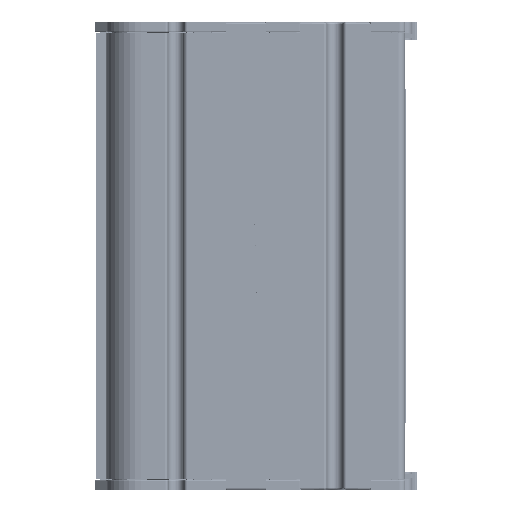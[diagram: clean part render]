
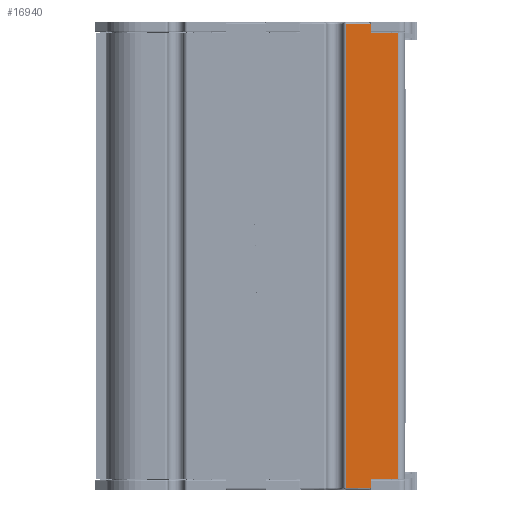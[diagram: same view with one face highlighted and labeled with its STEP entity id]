
A CAD part, left-side view. The second image highlights one B-rep face of the part: STEP entity #16940.
In plain terms, the highlighted planar face has unit normal (-1, 0, 0).
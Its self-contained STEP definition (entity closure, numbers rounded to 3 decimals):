
#2821=PLANE('',#75875);
#6736=LINE('',#200780,#11695);
#6764=LINE('',#200872,#11723);
#6768=LINE('',#200883,#11727);
#6827=LINE('',#201028,#11786);
#6828=LINE('',#201030,#11787);
#6829=LINE('',#201032,#11788);
#6830=LINE('',#201034,#11789);
#6831=LINE('',#201036,#11790);
#11695=VECTOR('',#85391,1.);
#11723=VECTOR('',#85467,1.);
#11727=VECTOR('',#85477,1.);
#11786=VECTOR('',#85628,1.);
#11787=VECTOR('',#85629,1.);
#11788=VECTOR('',#85630,1.);
#11789=VECTOR('',#85631,1.);
#11790=VECTOR('',#85632,1.);
#16940=ADVANCED_FACE('',(#21627),#2821,.F.);
#21627=FACE_OUTER_BOUND('',#25578,.T.);
#25578=EDGE_LOOP('',(#41005,#41006,#41007,#41008,#41009,#41010,#41011,#41012));
#41005=ORIENTED_EDGE('',*,*,#65550,.T.);
#41006=ORIENTED_EDGE('',*,*,#65551,.T.);
#41007=ORIENTED_EDGE('',*,*,#65552,.F.);
#41008=ORIENTED_EDGE('',*,*,#65553,.F.);
#41009=ORIENTED_EDGE('',*,*,#65554,.T.);
#41010=ORIENTED_EDGE('',*,*,#65471,.T.);
#41011=ORIENTED_EDGE('',*,*,#65477,.F.);
#41012=ORIENTED_EDGE('',*,*,#65431,.T.);
#56906=VERTEX_POINT('',#200742);
#56913=VERTEX_POINT('',#200779);
#56937=VERTEX_POINT('',#200871);
#56938=VERTEX_POINT('',#200873);
#56982=VERTEX_POINT('',#201029);
#56983=VERTEX_POINT('',#201031);
#56984=VERTEX_POINT('',#201033);
#56985=VERTEX_POINT('',#201035);
#65431=EDGE_CURVE('',#56913,#56906,#6736,.T.);
#65471=EDGE_CURVE('',#56938,#56937,#6764,.T.);
#65477=EDGE_CURVE('',#56913,#56937,#6768,.T.);
#65550=EDGE_CURVE('',#56906,#56982,#6827,.T.);
#65551=EDGE_CURVE('',#56982,#56983,#6828,.T.);
#65552=EDGE_CURVE('',#56984,#56983,#6829,.T.);
#65553=EDGE_CURVE('',#56985,#56984,#6830,.T.);
#65554=EDGE_CURVE('',#56985,#56938,#6831,.T.);
#75875=AXIS2_PLACEMENT_3D('',#201037,#85633,#85634);
#85391=DIRECTION('',(0.,1.,0.));
#85467=DIRECTION('',(0.,1.,0.));
#85477=DIRECTION('',(0.,0.,-1.));
#85628=DIRECTION('',(0.,0.,-1.));
#85629=DIRECTION('',(0.,-1.,0.));
#85630=DIRECTION('',(0.,0.,-1.));
#85631=DIRECTION('',(0.,1.,0.));
#85632=DIRECTION('',(0.,0.,1.));
#85633=DIRECTION('',(1.,0.,0.));
#85634=DIRECTION('',(0.,1.,0.));
#200742=CARTESIAN_POINT('',(4.487,40.184,287.4));
#200779=CARTESIAN_POINT('',(4.487,33.434,287.4));
#200780=CARTESIAN_POINT('',(4.487,40.184,287.4));
#200871=CARTESIAN_POINT('',(4.487,33.434,284.9));
#200872=CARTESIAN_POINT('',(4.487,26.184,284.9));
#200873=CARTESIAN_POINT('',(4.487,25.984,284.9));
#200883=CARTESIAN_POINT('',(4.487,33.434,226.3));
#201028=CARTESIAN_POINT('',(4.487,40.184,191.3));
#201029=CARTESIAN_POINT('',(4.487,40.184,159.));
#201030=CARTESIAN_POINT('',(4.487,26.184,159.));
#201031=CARTESIAN_POINT('',(4.487,33.434,159.));
#201032=CARTESIAN_POINT('',(4.487,33.434,161.5));
#201033=CARTESIAN_POINT('',(4.487,33.434,161.5));
#201034=CARTESIAN_POINT('',(4.487,26.184,161.5));
#201035=CARTESIAN_POINT('',(4.487,25.984,161.5));
#201036=CARTESIAN_POINT('',(4.487,25.984,220.6));
#201037=CARTESIAN_POINT('',(4.487,26.184,191.3));
